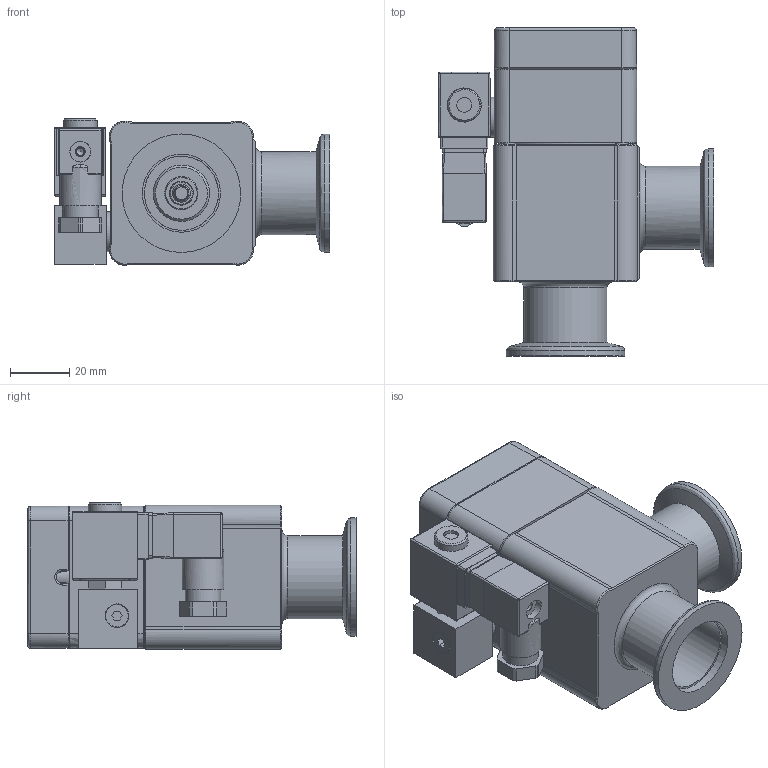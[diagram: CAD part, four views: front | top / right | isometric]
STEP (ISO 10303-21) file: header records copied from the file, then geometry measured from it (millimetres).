
FILE_DESCRIPTION((''),'2;1');
FILE_NAME('O:\MT\MT\Systeme\Cad\Datenexporte\www_vat_ch\240493.stp','2004-06-22T11:13:48',('User'),('SDRC'),'I-DEAS Master Series 9','UNIX','Yes');
FILE_SCHEMA(('CONFIG_CONTROL_DESIGN'));
Length unit declared in the file: millimetre
Assembly tree (16 placements, depth 0):
Bounding box: 92.85 x 110.6 x 49.4 mm (x, y, z)
Volume: 125656.3 mm3; surface area: 73807.1 mm2
Topology: 20 solids, 22 shells, 722 faces, 1726 edges, 1111 vertices
Faces by surface type: bspline 722
Entity records: 22696 total; most frequent: CARTESIAN_POINT 11647, ORIENTED_EDGE 3090, EDGE_CURVE 1545, VERTEX_POINT 985, EDGE_LOOP 746, FACE_OUTER_BOUND 647, ADVANCED_FACE 647, QUASI_UNIFORM_CURVE 560
